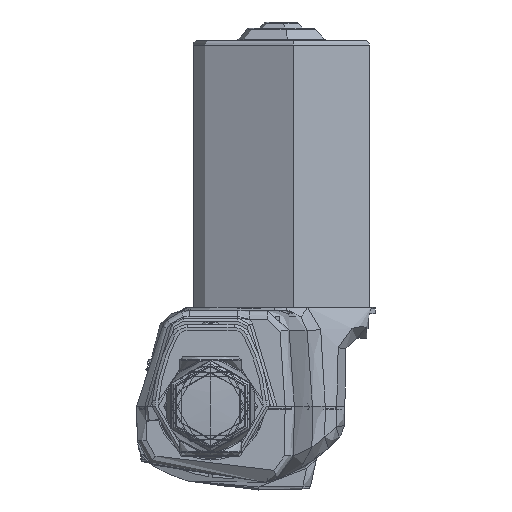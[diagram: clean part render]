
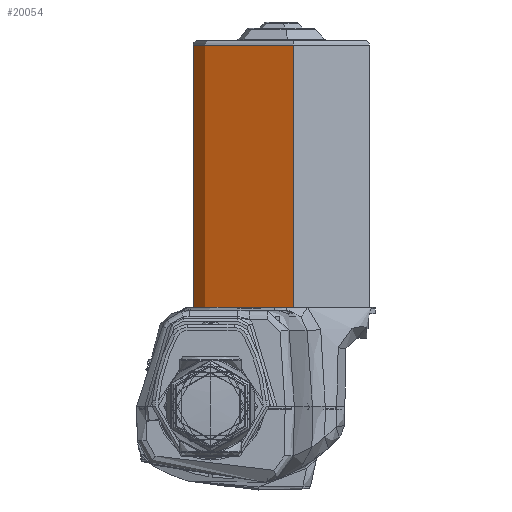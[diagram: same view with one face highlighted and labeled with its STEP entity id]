
A CAD part, left-side view. The second image highlights one B-rep face of the part: STEP entity #20054.
In plain terms, the highlighted cylindrical face has radius 31 mm (diameter 62 mm), a partial arc.
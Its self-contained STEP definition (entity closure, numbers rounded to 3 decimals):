
#3242 = CARTESIAN_POINT ( 'NONE',  ( 78., 0., 31. ) ) ;
#6325 = DIRECTION ( 'NONE',  ( -1., 0., 0. ) ) ;
#8777 = DIRECTION ( 'NONE',  ( 0., 0., 1. ) ) ;
#17895 = AXIS2_PLACEMENT_3D ( 'NONE', #19722, #80789, #28404 ) ;
#19722 = CARTESIAN_POINT ( 'NONE',  ( -7., 0., 0. ) ) ;
#20054 = ADVANCED_FACE ( 'NONE', ( #20869 ), #64569, .T. ) ;
#20869 = FACE_OUTER_BOUND ( 'NONE', #24675, .T. ) ;
#24675 = EDGE_LOOP ( 'NONE', ( #84502, #95439, #31454, #79495 ) ) ;
#28404 = DIRECTION ( 'NONE',  ( 0., 0., 1. ) ) ;
#30666 = VERTEX_POINT ( 'NONE', #79543 ) ;
#31454 = ORIENTED_EDGE ( 'NONE', *, *, #60540, .F. ) ;
#34270 = CARTESIAN_POINT ( 'NONE',  ( -42.121, 0., 31. ) ) ;
#34387 = AXIS2_PLACEMENT_3D ( 'NONE', #43900, #43521, #8777 ) ;
#37222 = VERTEX_POINT ( 'NONE', #40551 ) ;
#37533 = VECTOR ( 'NONE', #6325, 1000. ) ;
#40551 = CARTESIAN_POINT ( 'NONE',  ( 78., 0., -31. ) ) ;
#42591 = AXIS2_PLACEMENT_3D ( 'NONE', #95985, #43708, #104750 ) ;
#43521 = DIRECTION ( 'NONE',  ( -1., 0., 0. ) ) ;
#43708 = DIRECTION ( 'NONE',  ( -1., 0., 0. ) ) ;
#43900 = CARTESIAN_POINT ( 'NONE',  ( -42.121, 0., 0. ) ) ;
#47883 = CIRCLE ( 'NONE', #42591, 31. ) ;
#48597 = EDGE_CURVE ( 'NONE', #103377, #30666, #73162, .T. ) ;
#49891 = VECTOR ( 'NONE', #86588, 1000. ) ;
#52571 = LINE ( 'NONE', #67442, #37533 ) ;
#52735 = VERTEX_POINT ( 'NONE', #90397 ) ;
#60540 = EDGE_CURVE ( 'NONE', #30666, #52735, #90589, .T. ) ;
#64569 = CYLINDRICAL_SURFACE ( 'NONE', #34387, 31. ) ;
#67442 = CARTESIAN_POINT ( 'NONE',  ( -42.121, 0., -31. ) ) ;
#73162 = LINE ( 'NONE', #34270, #49891 ) ;
#79495 = ORIENTED_EDGE ( 'NONE', *, *, #48597, .F. ) ;
#79543 = CARTESIAN_POINT ( 'NONE',  ( -7., 0., 31. ) ) ;
#80789 = DIRECTION ( 'NONE',  ( -1., 0., 0. ) ) ;
#81940 = EDGE_CURVE ( 'NONE', #103377, #37222, #47883, .T. ) ;
#84502 = ORIENTED_EDGE ( 'NONE', *, *, #81940, .T. ) ;
#86588 = DIRECTION ( 'NONE',  ( -1., 0., 0. ) ) ;
#90397 = CARTESIAN_POINT ( 'NONE',  ( -7., 0., -31. ) ) ;
#90589 = CIRCLE ( 'NONE', #17895, 31. ) ;
#95439 = ORIENTED_EDGE ( 'NONE', *, *, #111099, .T. ) ;
#95985 = CARTESIAN_POINT ( 'NONE',  ( 78., 0., 0. ) ) ;
#103377 = VERTEX_POINT ( 'NONE', #3242 ) ;
#104750 = DIRECTION ( 'NONE',  ( 0., 0., 1. ) ) ;
#111099 = EDGE_CURVE ( 'NONE', #37222, #52735, #52571, .T. ) ;
